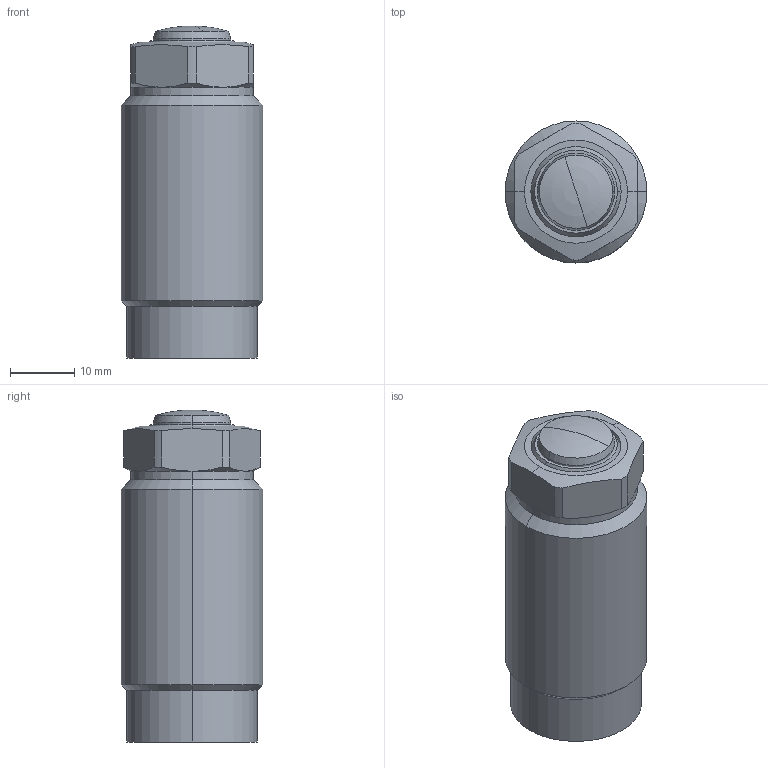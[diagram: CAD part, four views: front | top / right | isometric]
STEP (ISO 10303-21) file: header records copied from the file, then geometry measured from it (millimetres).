
FILE_DESCRIPTION((' '),'2;1');
FILE_NAME( 'TGP22-RL.x_t.stp', '2025-02-10T16:03:51', (' '), ('--- Datakit www.datakit.com---'), ' Datakit CrossCadWare V2024.1 Dec 21 2023', 'Mastercam 2025', ' ');
FILE_SCHEMA(('AUTOMOTIVE_DESIGN { 1 0 10303 214 1 1 1 1 }'));
Length unit declared in the file: millimetre
Products named in the file (1): TGP22-RL
Bounding box: 22 x 22 x 51.5 mm (x, y, z)
Volume: 19290.3 mm3; surface area: 5104.6 mm2
Topology: 2 solids, 2 shells, 65 faces, 151 edges, 93 vertices
Faces by surface type: cylinder 26, cone 18, plane 15, torus 6
Entity records: 1928 total; most frequent: CARTESIAN_POINT 410, DIRECTION 340, ORIENTED_EDGE 294, EDGE_CURVE 147, AXIS2_PLACEMENT_3D 147, VERTEX_POINT 93, CIRCLE 81, EDGE_LOOP 72
